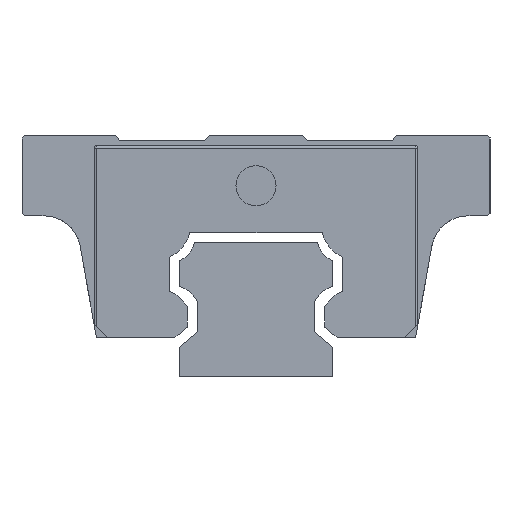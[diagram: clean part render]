
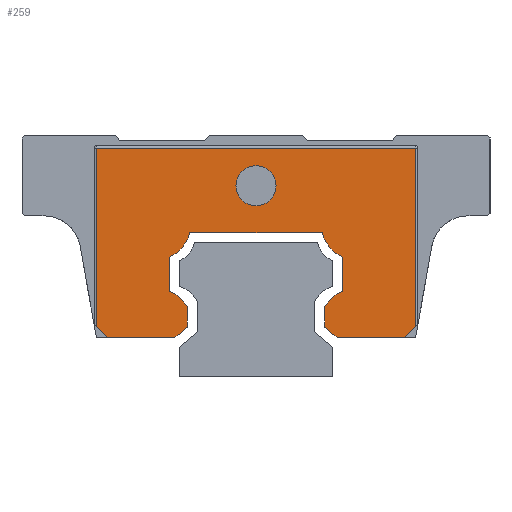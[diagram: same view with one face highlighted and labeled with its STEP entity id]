
A CAD part, left-side view. The second image highlights one B-rep face of the part: STEP entity #259.
In plain terms, the highlighted planar face has unit normal (-1, 0, 0).
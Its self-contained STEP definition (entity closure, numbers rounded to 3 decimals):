
#47=FACE_BOUND('',#596,.T.);
#48=FACE_BOUND('',#597,.T.);
#259=ADVANCED_FACE('',(#47,#48),#405,.T.);
#405=PLANE('',#2594);
#596=EDGE_LOOP('',(#1313));
#597=EDGE_LOOP('',(#1314,#1315,#1316,#1317,#1318,#1319,#1320,#1321,#1322,
#1323,#1324,#1325,#1326,#1327,#1328,#1329,#1330,#1331));
#804=LINE('',#3622,#1012);
#810=LINE('',#3638,#1018);
#813=LINE('',#3644,#1021);
#820=LINE('',#3658,#1028);
#821=LINE('',#3668,#1029);
#834=LINE('',#3695,#1042);
#843=LINE('',#3715,#1051);
#846=LINE('',#3721,#1054);
#851=LINE('',#3730,#1059);
#859=LINE('',#3747,#1067);
#866=LINE('',#3762,#1074);
#867=LINE('',#3766,#1075);
#868=LINE('',#3768,#1076);
#869=LINE('',#3770,#1077);
#1012=VECTOR('',#2863,1.);
#1018=VECTOR('',#2877,1.);
#1021=VECTOR('',#2882,1.);
#1028=VECTOR('',#2891,1.);
#1029=VECTOR('',#2896,1.);
#1042=VECTOR('',#2917,1.);
#1051=VECTOR('',#2930,1.);
#1054=VECTOR('',#2935,1.);
#1059=VECTOR('',#2942,1.);
#1067=VECTOR('',#2956,1.);
#1074=VECTOR('',#2969,1.);
#1075=VECTOR('',#2974,1.);
#1076=VECTOR('',#2975,1.);
#1077=VECTOR('',#2976,1.);
#1313=ORIENTED_EDGE('',*,*,#2196,.F.);
#1314=ORIENTED_EDGE('',*,*,#2147,.T.);
#1315=ORIENTED_EDGE('',*,*,#2197,.T.);
#1316=ORIENTED_EDGE('',*,*,#2198,.T.);
#1317=ORIENTED_EDGE('',*,*,#2199,.T.);
#1318=ORIENTED_EDGE('',*,*,#2160,.T.);
#1319=ORIENTED_EDGE('',*,*,#2170,.T.);
#1320=ORIENTED_EDGE('',*,*,#2173,.T.);
#1321=ORIENTED_EDGE('',*,*,#2178,.T.);
#1322=ORIENTED_EDGE('',*,*,#2180,.T.);
#1323=ORIENTED_EDGE('',*,*,#2187,.T.);
#1324=ORIENTED_EDGE('',*,*,#2189,.T.);
#1325=ORIENTED_EDGE('',*,*,#2195,.T.);
#1326=ORIENTED_EDGE('',*,*,#2118,.T.);
#1327=ORIENTED_EDGE('',*,*,#2126,.T.);
#1328=ORIENTED_EDGE('',*,*,#2129,.T.);
#1329=ORIENTED_EDGE('',*,*,#2134,.T.);
#1330=ORIENTED_EDGE('',*,*,#2137,.T.);
#1331=ORIENTED_EDGE('',*,*,#2144,.T.);
#1887=VERTEX_POINT('',#3605);
#1888=VERTEX_POINT('',#3607);
#1894=VERTEX_POINT('',#3621);
#1896=VERTEX_POINT('',#3627);
#1900=VERTEX_POINT('',#3637);
#1902=VERTEX_POINT('',#3643);
#1908=VERTEX_POINT('',#3657);
#1911=VERTEX_POINT('',#3667);
#1922=VERTEX_POINT('',#3696);
#1923=VERTEX_POINT('',#3697);
#1930=VERTEX_POINT('',#3714);
#1932=VERTEX_POINT('',#3720);
#1935=VERTEX_POINT('',#3729);
#1936=VERTEX_POINT('',#3733);
#1941=VERTEX_POINT('',#3746);
#1942=VERTEX_POINT('',#3750);
#1947=VERTEX_POINT('',#3765);
#1948=VERTEX_POINT('',#3767);
#1949=VERTEX_POINT('',#3769);
#2118=EDGE_CURVE('',#1888,#1887,#2450,.T.);
#2126=EDGE_CURVE('',#1887,#1894,#804,.T.);
#2129=EDGE_CURVE('',#1894,#1896,#2452,.T.);
#2134=EDGE_CURVE('',#1896,#1900,#810,.T.);
#2137=EDGE_CURVE('',#1900,#1902,#813,.T.);
#2144=EDGE_CURVE('',#1902,#1908,#820,.T.);
#2147=EDGE_CURVE('',#1908,#1911,#821,.T.);
#2160=EDGE_CURVE('',#1922,#1923,#834,.T.);
#2170=EDGE_CURVE('',#1923,#1930,#843,.T.);
#2173=EDGE_CURVE('',#1930,#1932,#846,.T.);
#2178=EDGE_CURVE('',#1932,#1935,#851,.T.);
#2180=EDGE_CURVE('',#1935,#1936,#2453,.T.);
#2187=EDGE_CURVE('',#1936,#1941,#859,.T.);
#2189=EDGE_CURVE('',#1941,#1942,#2454,.T.);
#2195=EDGE_CURVE('',#1942,#1888,#866,.T.);
#2196=EDGE_CURVE('',#1947,#1947,#2455,.T.);
#2197=EDGE_CURVE('',#1911,#1948,#867,.T.);
#2198=EDGE_CURVE('',#1948,#1949,#868,.T.);
#2199=EDGE_CURVE('',#1949,#1922,#869,.T.);
#2450=CIRCLE('',#2568,5.46);
#2452=CIRCLE('',#2572,5.46);
#2453=CIRCLE('',#2587,5.46);
#2454=CIRCLE('',#2590,5.46);
#2455=CIRCLE('',#2593,3.);
#2568=AXIS2_PLACEMENT_3D('',#3606,#2852,#2853);
#2572=AXIS2_PLACEMENT_3D('',#3628,#2869,#2870);
#2587=AXIS2_PLACEMENT_3D('',#3734,#2946,#2947);
#2590=AXIS2_PLACEMENT_3D('',#3751,#2960,#2961);
#2593=AXIS2_PLACEMENT_3D('',#3764,#2972,#2973);
#2594=AXIS2_PLACEMENT_3D('',#3771,#2977,#2978);
#2852=DIRECTION('',(-1.,0.,0.));
#2853=DIRECTION('',(0.,1.,0.));
#2863=DIRECTION('',(0.,0.,-1.));
#2869=DIRECTION('',(-1.,0.,0.));
#2870=DIRECTION('',(0.,1.,0.));
#2877=DIRECTION('',(0.,0.,-1.));
#2882=DIRECTION('',(0.,-0.766,-0.643));
#2891=DIRECTION('',(0.,-1.,0.));
#2896=DIRECTION('',(0.,-0.707,0.707));
#2917=DIRECTION('',(0.,-0.707,-0.707));
#2930=DIRECTION('',(0.,-1.,0.));
#2935=DIRECTION('',(0.,-0.766,0.643));
#2942=DIRECTION('',(0.,0.,1.));
#2946=DIRECTION('',(-1.,0.,0.));
#2947=DIRECTION('',(0.,-1.,0.));
#2956=DIRECTION('',(0.,0.,1.));
#2960=DIRECTION('',(-1.,0.,0.));
#2961=DIRECTION('',(0.,-1.,0.));
#2969=DIRECTION('',(0.,-1.,0.));
#2972=DIRECTION('',(-1.,0.,0.));
#2973=DIRECTION('',(0.,1.,0.));
#2974=DIRECTION('',(0.,0.,1.));
#2975=DIRECTION('',(0.,1.,0.));
#2976=DIRECTION('',(0.,0.,-1.));
#2977=DIRECTION('',(-1.,0.,0.));
#2978=DIRECTION('',(0.,0.,1.));
#3605=CARTESIAN_POINT('',(-55.,-13.,17.805));
#3606=CARTESIAN_POINT('',(-55.,-15.202,22.801));
#3607=CARTESIAN_POINT('',(-55.,-9.899,21.5));
#3621=CARTESIAN_POINT('',(-55.,-13.,12.712));
#3622=CARTESIAN_POINT('',(-55.,-13.,17.805));
#3627=CARTESIAN_POINT('',(-55.,-10.259,10.412));
#3628=CARTESIAN_POINT('',(-55.,-14.945,7.61));
#3637=CARTESIAN_POINT('',(-55.,-10.259,7.366));
#3638=CARTESIAN_POINT('',(-55.,-10.259,10.412));
#3643=CARTESIAN_POINT('',(-55.,-12.125,5.8));
#3644=CARTESIAN_POINT('',(-55.,-10.259,7.366));
#3657=CARTESIAN_POINT('',(-55.,-22.222,5.8));
#3658=CARTESIAN_POINT('',(-55.,-12.125,5.8));
#3667=CARTESIAN_POINT('',(-55.,-23.878,7.456));
#3668=CARTESIAN_POINT('',(-55.,-22.222,5.8));
#3695=CARTESIAN_POINT('',(-55.,24.228,7.8));
#3696=CARTESIAN_POINT('',(-55.,23.878,7.45));
#3697=CARTESIAN_POINT('',(-55.,22.228,5.8));
#3714=CARTESIAN_POINT('',(-55.,12.125,5.8));
#3715=CARTESIAN_POINT('',(-55.,22.228,5.8));
#3720=CARTESIAN_POINT('',(-55.,10.259,7.366));
#3721=CARTESIAN_POINT('',(-55.,12.125,5.8));
#3729=CARTESIAN_POINT('',(-55.,10.259,10.412));
#3730=CARTESIAN_POINT('',(-55.,10.259,7.366));
#3733=CARTESIAN_POINT('',(-55.,13.,12.712));
#3734=CARTESIAN_POINT('',(-55.,14.945,7.61));
#3746=CARTESIAN_POINT('',(-55.,13.,17.805));
#3747=CARTESIAN_POINT('',(-55.,13.,12.712));
#3750=CARTESIAN_POINT('',(-55.,9.899,21.5));
#3751=CARTESIAN_POINT('',(-55.,15.202,22.801));
#3762=CARTESIAN_POINT('',(-55.,9.899,21.5));
#3764=CARTESIAN_POINT('',(-55.,0.,28.5));
#3765=CARTESIAN_POINT('',(-55.,3.,28.5));
#3766=CARTESIAN_POINT('',(-55.,-23.878,34.5));
#3767=CARTESIAN_POINT('',(-55.,-23.878,34.15));
#3768=CARTESIAN_POINT('',(-55.,24.228,34.15));
#3769=CARTESIAN_POINT('',(-55.,23.878,34.15));
#3770=CARTESIAN_POINT('',(-55.,23.878,7.8));
#3771=CARTESIAN_POINT('',(-55.,-15.202,22.801));
